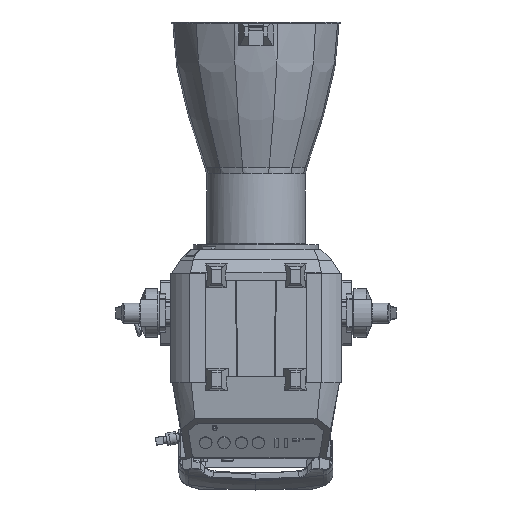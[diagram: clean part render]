
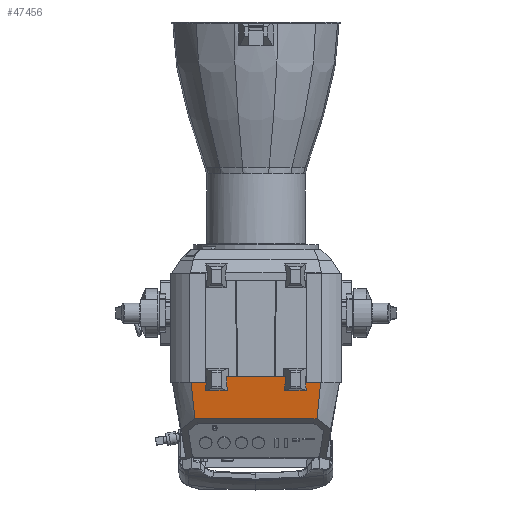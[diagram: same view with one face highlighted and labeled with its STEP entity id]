
A CAD part, front view. The second image highlights one B-rep face of the part: STEP entity #47456.
In plain terms, the highlighted planar face has unit normal (0, -0.994, -0.106).
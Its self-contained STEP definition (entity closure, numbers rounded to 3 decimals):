
#97 = LINE ( 'NONE', #27250, #21316 ) ;
#904 = VERTEX_POINT ( 'NONE', #36370 ) ;
#2564 = VECTOR ( 'NONE', #13390, 1000. ) ;
#3040 = VECTOR ( 'NONE', #21848, 1000. ) ;
#3266 = EDGE_CURVE ( 'NONE', #11613, #76102, #23929, .T. ) ;
#3328 = ORIENTED_EDGE ( 'NONE', *, *, #57279, .T. ) ;
#3333 = LINE ( 'NONE', #67450, #32363 ) ;
#3965 = VERTEX_POINT ( 'NONE', #27077 ) ;
#4022 = LINE ( 'NONE', #46315, #3040 ) ;
#4259 = CARTESIAN_POINT ( 'NONE',  ( -80.501, -141.248, -155.66 ) ) ;
#4763 = CARTESIAN_POINT ( 'NONE',  ( 0., -141.248, -155.66 ) ) ;
#5732 = ORIENTED_EDGE ( 'NONE', *, *, #3266, .T. ) ;
#6587 = DIRECTION ( 'NONE',  ( 0.06, -0.105, 0.993 ) ) ;
#6804 = EDGE_CURVE ( 'NONE', #28791, #3965, #57825, .T. ) ;
#7576 = VECTOR ( 'NONE', #17596, 1000. ) ;
#8607 = ORIENTED_EDGE ( 'NONE', *, *, #46793, .F. ) ;
#10780 = CARTESIAN_POINT ( 'NONE',  ( -45.811, -138.93, -177.492 ) ) ;
#11468 = DIRECTION ( 'NONE',  ( 1., 0., 0. ) ) ;
#11613 = VERTEX_POINT ( 'NONE', #45303 ) ;
#12059 = LINE ( 'NONE', #78572, #75693 ) ;
#12832 = EDGE_CURVE ( 'NONE', #55848, #21205, #69249, .T. ) ;
#13390 = DIRECTION ( 'NONE',  ( 0., 0.106, -0.994 ) ) ;
#13641 = LINE ( 'NONE', #62878, #70524 ) ;
#14576 = ORIENTED_EDGE ( 'NONE', *, *, #71306, .T. ) ;
#14879 = CARTESIAN_POINT ( 'NONE',  ( 97.483, -134.122, -222.771 ) ) ;
#14959 = CARTESIAN_POINT ( 'NONE',  ( 0., -141.248, -155.66 ) ) ;
#15068 = LINE ( 'NONE', #79388, #2564 ) ;
#15693 = VECTOR ( 'NONE', #20661, 1000. ) ;
#15880 = EDGE_CURVE ( 'NONE', #24437, #21205, #12059, .T. ) ;
#16677 = ORIENTED_EDGE ( 'NONE', *, *, #59776, .T. ) ;
#16877 = ORIENTED_EDGE ( 'NONE', *, *, #64749, .F. ) ;
#17278 = FACE_OUTER_BOUND ( 'NONE', #53060, .T. ) ;
#17441 = DIRECTION ( 'NONE',  ( -0.099, 0.105, -0.99 ) ) ;
#17596 = DIRECTION ( 'NONE',  ( 1., 0., 0. ) ) ;
#17986 = CARTESIAN_POINT ( 'NONE',  ( 45.842, -138.984, -176.982 ) ) ;
#19737 = DIRECTION ( 'NONE',  ( -1., 0., 0. ) ) ;
#20661 = DIRECTION ( 'NONE',  ( -1., 0., 0. ) ) ;
#21205 = VERTEX_POINT ( 'NONE', #14879 ) ;
#21316 = VECTOR ( 'NONE', #52216, 1000. ) ;
#21848 = DIRECTION ( 'NONE',  ( 0.06, -0.105, 0.993 ) ) ;
#21887 = CARTESIAN_POINT ( 'NONE',  ( 104.214, -138.93, -177.492 ) ) ;
#22195 = VECTOR ( 'NONE', #51906, 1000. ) ;
#23140 = LINE ( 'NONE', #62708, #22195 ) ;
#23378 = DIRECTION ( 'NONE',  ( -0.06, -0.105, 0.993 ) ) ;
#23929 = LINE ( 'NONE', #4763, #79737 ) ;
#24349 = ORIENTED_EDGE ( 'NONE', *, *, #41041, .F. ) ;
#24437 = VERTEX_POINT ( 'NONE', #37287 ) ;
#25162 = CARTESIAN_POINT ( 'NONE',  ( 80.501, -141.248, -155.66 ) ) ;
#25448 = VERTEX_POINT ( 'NONE', #4259 ) ;
#26828 = CARTESIAN_POINT ( 'NONE',  ( -80.189, -138.93, -177.492 ) ) ;
#27077 = CARTESIAN_POINT ( 'NONE',  ( 78.859, -141.248, -155.66 ) ) ;
#27087 = CARTESIAN_POINT ( 'NONE',  ( -47.141, -141.248, -155.66 ) ) ;
#27250 = CARTESIAN_POINT ( 'NONE',  ( -46.587, -140.283, -164.746 ) ) ;
#27540 = VERTEX_POINT ( 'NONE', #26828 ) ;
#27562 = CARTESIAN_POINT ( 'NONE',  ( -103.261, -140.238, -165.172 ) ) ;
#28791 = VERTEX_POINT ( 'NONE', #49414 ) ;
#29052 = CARTESIAN_POINT ( 'NONE',  ( 104.214, -140.238, -165.172 ) ) ;
#30060 = CARTESIAN_POINT ( 'NONE',  ( -78.859, -141.248, -155.66 ) ) ;
#30079 = DIRECTION ( 'NONE',  ( 0., -0.994, -0.106 ) ) ;
#30974 = LINE ( 'NONE', #29052, #31923 ) ;
#31923 = VECTOR ( 'NONE', #11468, 1000. ) ;
#32183 = LINE ( 'NONE', #14959, #15693 ) ;
#32363 = VECTOR ( 'NONE', #60626, 1000. ) ;
#32376 = LINE ( 'NONE', #64466, #64993 ) ;
#32652 = EDGE_CURVE ( 'NONE', #904, #24437, #30974, .T. ) ;
#34600 = VECTOR ( 'NONE', #71436, 1000. ) ;
#36237 = LINE ( 'NONE', #77710, #39093 ) ;
#36369 = LINE ( 'NONE', #56630, #39225 ) ;
#36370 = CARTESIAN_POINT ( 'NONE',  ( 80.501, -140.238, -165.171 ) ) ;
#36495 = AXIS2_PLACEMENT_3D ( 'NONE', #66929, #30079, #67454 ) ;
#37287 = CARTESIAN_POINT ( 'NONE',  ( 103.261, -140.238, -165.172 ) ) ;
#38607 = ORIENTED_EDGE ( 'NONE', *, *, #12832, .T. ) ;
#39093 = VECTOR ( 'NONE', #40056, 1000. ) ;
#39225 = VECTOR ( 'NONE', #19737, 1000. ) ;
#39232 = DIRECTION ( 'NONE',  ( 1., 0., 0. ) ) ;
#39604 = ORIENTED_EDGE ( 'NONE', *, *, #78961, .T. ) ;
#40056 = DIRECTION ( 'NONE',  ( -1., 0., 0. ) ) ;
#41041 = EDGE_CURVE ( 'NONE', #65693, #67585, #32376, .T. ) ;
#41875 = CARTESIAN_POINT ( 'NONE',  ( -97.483, -134.122, -222.771 ) ) ;
#42418 = PLANE ( 'NONE',  #36495 ) ;
#45303 = CARTESIAN_POINT ( 'NONE',  ( 47.141, -141.248, -155.66 ) ) ;
#46315 = CARTESIAN_POINT ( 'NONE',  ( -78.189, -142.415, -144.67 ) ) ;
#46793 = EDGE_CURVE ( 'NONE', #64444, #76102, #97, .T. ) ;
#47456 = ADVANCED_FACE ( 'NONE', ( #17278 ), #42418, .T. ) ;
#48860 = CARTESIAN_POINT ( 'NONE',  ( 78.952, -141.086, -157.182 ) ) ;
#49414 = CARTESIAN_POINT ( 'NONE',  ( 80.158, -138.984, -176.982 ) ) ;
#51409 = ORIENTED_EDGE ( 'NONE', *, *, #60872, .T. ) ;
#51609 = ORIENTED_EDGE ( 'NONE', *, *, #32652, .F. ) ;
#51906 = DIRECTION ( 'NONE',  ( 0., -0.106, 0.994 ) ) ;
#52216 = DIRECTION ( 'NONE',  ( -0.06, -0.105, 0.993 ) ) ;
#52998 = VECTOR ( 'NONE', #23378, 1000. ) ;
#53060 = EDGE_LOOP ( 'NONE', ( #55116, #16677, #78804, #14576, #64637, #5732, #8607, #39604, #51409, #3328, #16877, #24349, #70591, #38607, #73684, #51609 ) ) ;
#53938 = CARTESIAN_POINT ( 'NONE',  ( 104.214, -134.122, -222.771 ) ) ;
#55116 = ORIENTED_EDGE ( 'NONE', *, *, #59393, .F. ) ;
#55848 = VERTEX_POINT ( 'NONE', #41875 ) ;
#56630 = CARTESIAN_POINT ( 'NONE',  ( 104.214, -138.984, -176.982 ) ) ;
#57279 = EDGE_CURVE ( 'NONE', #62553, #25448, #32183, .T. ) ;
#57825 = LINE ( 'NONE', #48860, #52998 ) ;
#59393 = EDGE_CURVE ( 'NONE', #60048, #904, #15068, .T. ) ;
#59776 = EDGE_CURVE ( 'NONE', #60048, #3965, #36237, .T. ) ;
#60048 = VERTEX_POINT ( 'NONE', #25162 ) ;
#60273 = DIRECTION ( 'NONE',  ( -1., 0., 0. ) ) ;
#60626 = DIRECTION ( 'NONE',  ( 0.099, 0.105, -0.99 ) ) ;
#60872 = EDGE_CURVE ( 'NONE', #27540, #62553, #4022, .T. ) ;
#62553 = VERTEX_POINT ( 'NONE', #30060 ) ;
#62708 = CARTESIAN_POINT ( 'NONE',  ( -80.501, -141.25, -155.643 ) ) ;
#62878 = CARTESIAN_POINT ( 'NONE',  ( 47.35, -141.612, -152.234 ) ) ;
#64444 = VERTEX_POINT ( 'NONE', #10780 ) ;
#64466 = CARTESIAN_POINT ( 'NONE',  ( 104.215, -140.239, -165.167 ) ) ;
#64637 = ORIENTED_EDGE ( 'NONE', *, *, #66862, .T. ) ;
#64749 = EDGE_CURVE ( 'NONE', #67585, #25448, #23140, .T. ) ;
#64993 = VECTOR ( 'NONE', #39232, 1000. ) ;
#65693 = VERTEX_POINT ( 'NONE', #27562 ) ;
#65956 = CARTESIAN_POINT ( 'NONE',  ( -80.501, -140.238, -165.171 ) ) ;
#66862 = EDGE_CURVE ( 'NONE', #78040, #11613, #13641, .T. ) ;
#66929 = CARTESIAN_POINT ( 'NONE',  ( 104.214, -141.248, -155.66 ) ) ;
#67306 = LINE ( 'NONE', #21887, #34600 ) ;
#67450 = CARTESIAN_POINT ( 'NONE',  ( -100.247, -137.048, -195.215 ) ) ;
#67454 = DIRECTION ( 'NONE',  ( -1., 0., 0. ) ) ;
#67585 = VERTEX_POINT ( 'NONE', #65956 ) ;
#69249 = LINE ( 'NONE', #53938, #7576 ) ;
#70524 = VECTOR ( 'NONE', #6587, 1000. ) ;
#70591 = ORIENTED_EDGE ( 'NONE', *, *, #72430, .T. ) ;
#71306 = EDGE_CURVE ( 'NONE', #28791, #78040, #36369, .T. ) ;
#71436 = DIRECTION ( 'NONE',  ( -1., 0., 0. ) ) ;
#72430 = EDGE_CURVE ( 'NONE', #65693, #55848, #3333, .T. ) ;
#73684 = ORIENTED_EDGE ( 'NONE', *, *, #15880, .F. ) ;
#75693 = VECTOR ( 'NONE', #17441, 1000. ) ;
#76102 = VERTEX_POINT ( 'NONE', #27087 ) ;
#77710 = CARTESIAN_POINT ( 'NONE',  ( 0., -141.248, -155.66 ) ) ;
#78040 = VERTEX_POINT ( 'NONE', #17986 ) ;
#78572 = CARTESIAN_POINT ( 'NONE',  ( 100.247, -137.048, -195.215 ) ) ;
#78804 = ORIENTED_EDGE ( 'NONE', *, *, #6804, .F. ) ;
#78961 = EDGE_CURVE ( 'NONE', #64444, #27540, #67306, .T. ) ;
#79388 = CARTESIAN_POINT ( 'NONE',  ( 80.501, -141.248, -155.662 ) ) ;
#79737 = VECTOR ( 'NONE', #60273, 1000. ) ;
